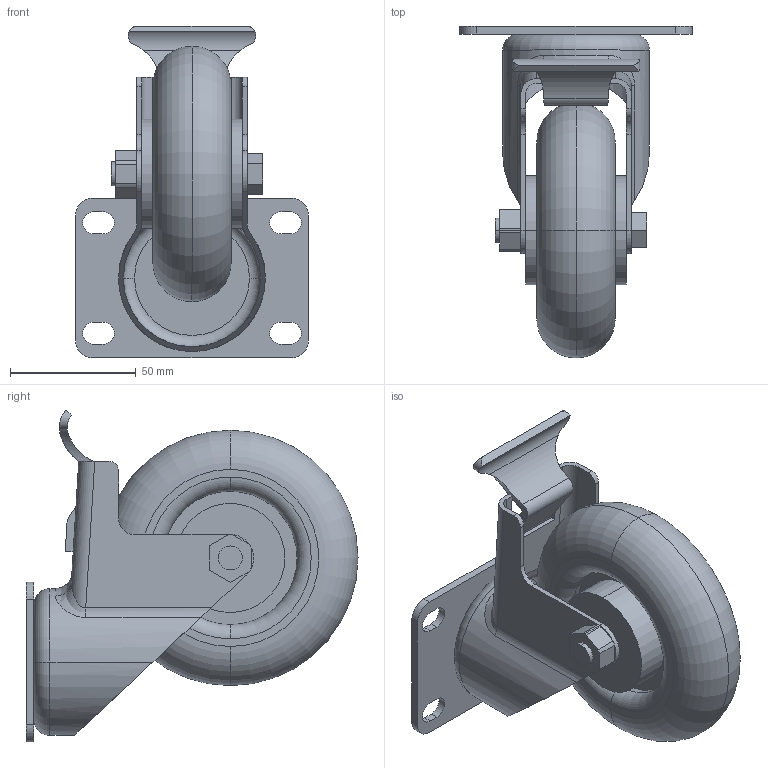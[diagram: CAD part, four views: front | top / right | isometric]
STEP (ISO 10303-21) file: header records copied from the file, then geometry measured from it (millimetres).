
FILE_DESCRIPTION (( 'STEP AP214' ), '1' );
FILE_NAME ('5.2in_500lbs_Polyurethane Swivel and Brake Caster.STEP', '2025-06-10T16:51:14', ( '' ), ( '' ), 'SwSTEP 2.0', 'SolidWorks 2023', '' );
FILE_SCHEMA (( 'AUTOMOTIVE_DESIGN' ));
Length unit declared in the file: inch
Products named in the file (1): 5.2in_500lbs_Polyurethane Swivel and Brake Caster
Bounding box: 92.52 x 132.08 x 131.94 mm (x, y, z)
Volume: 273640.3 mm3; surface area: 93277.7 mm2
Topology: 7 solids, 7 shells, 149 faces, 374 edges, 244 vertices
Faces by surface type: plane 66, cylinder 65, torus 12, bspline 6
Entity records: 5333 total; most frequent: CARTESIAN_POINT 1624, DIRECTION 752, ORIENTED_EDGE 748, EDGE_CURVE 374, AXIS2_PLACEMENT_3D 276, VERTEX_POINT 244, LINE 200, VECTOR 200
